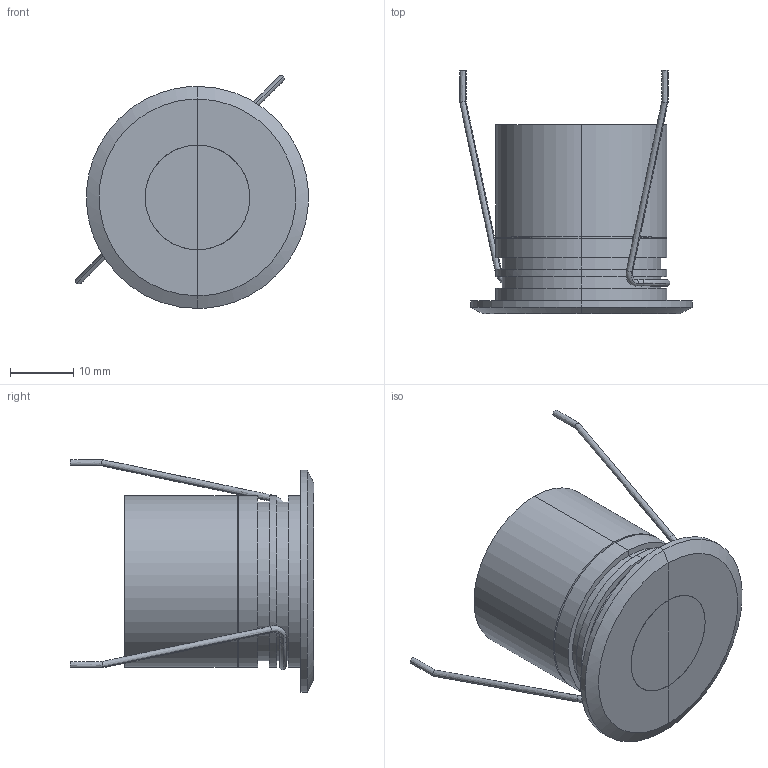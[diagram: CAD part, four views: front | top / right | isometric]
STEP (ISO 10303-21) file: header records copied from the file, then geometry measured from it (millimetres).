
FILE_DESCRIPTION(/* description */ (''),/* implementation_level */ '2;1');
FILE_NAME(/* name */ 'Pea',/* time_stamp */ '2025-06-18T18:14:26+02:00',/* author */ (''),/* organization */ (''),/* preprocessor_version */ 'ST-DEVELOPER v15',/* originating_system */ '',/* authorisation */ '');
FILE_SCHEMA (('CONFIG_CONTROL_DESIGN'));
Length unit declared in the file: millimetre
Products named in the file (4): Document; Block 03; Block 02; Block 01
Assembly tree (3 placements, depth 2):
  Document
    Block 03
    Block 02
    Block 01
Bounding box: 36.65 x 38.34 x 36.71 mm (x, y, z)
Volume: 13069.7 mm3; surface area: 12528.5 mm2
Topology: 9 solids, 9 shells, 429 faces, 1057 edges, 624 vertices
Faces by surface type: bspline 429
Entity records: 37329 total; most frequent: CARTESIAN_POINT 23871, B_SPLINE_CURVE_WITH_KNOTS 2641, ORIENTED_EDGE 2082, PCURVE 2082, DEFINITIONAL_REPRESENTATION 2082, SURFACE_CURVE 1041, EDGE_CURVE 1041, VERTEX_POINT 624
